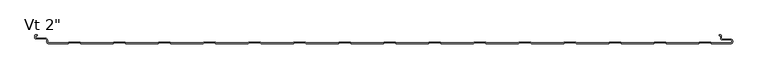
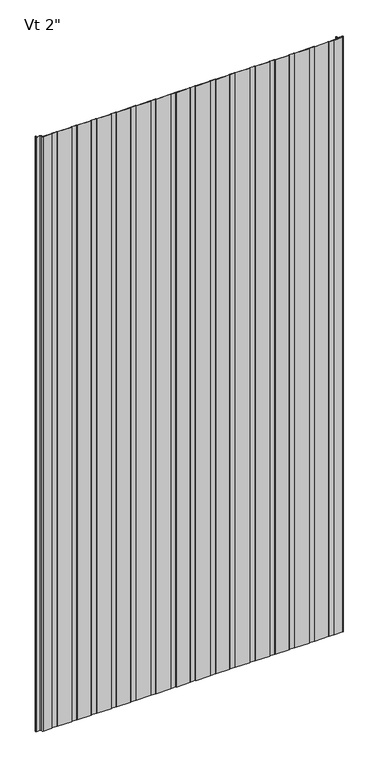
"""IFC4 building model written with IfcOpenShell, lengths in millimetres: plate geometry."""

from ifc_helpers import new_model, si_unit, frame, origin, place, context, project, spatial, polyline, circle_curve, source, transform, mapped, element, save
from ifc_brep_helpers import plane_surface, cylinder_surface, revolved_surface, advanced_brep


def plate_17dc52cc(model_context):
    return source(origin(), model_context, "Body", "AdvancedBrep", [
        advanced_brep(
        [(390.6883592, -50.8, 2400.0), (445.2678137, -50.8, 2400.0), (446.3403385, -49.6088405, 2400.0), (465.2384546, -49.6088405, 2400.0), (466.3109794, -50.8, 2400.0), (520.890434, -50.8, 2400.0), (521.9629588, -49.6088405, 2400.0), (540.8610749, -49.6088405, 2400.0), (541.9335958, -50.7999956, 2400.0), (574.5475652, -50.7999956, 2400.0), (577.5248337, -47.8227271, 2400.0), (577.5248337, -46.7806285, 2400.0), (574.5475652, -43.80336, 2400.0), (560.3591801, -43.80336, 2400.0), (558.7713036, -42.2154834, 2400.0), (558.7713036, -37.8950653, 2400.0), (557.1304042, -36.3065979, 2400.0), (554.7857432, -36.3065979, 2400.0), (554.7857432, -37.3060718, 2400.0), (557.1628365, -37.3060718, 2400.0), (557.7713037, -37.8950653, 2400.0), (557.7713037, -42.2154834, 2400.0), (560.3591801, -44.80336, 2400.0), (574.5475652, -44.80336, 2400.0), (576.5248337, -46.7806285, 2400.0), (576.5248337, -47.8227271, 2400.0), (574.5475652, -49.7999956, 2400.0), (542.3760351, -49.7999956, 2400.0), (541.3035142, -48.6088405, 2400.0), (521.5205195, -48.6088405, 2400.0), (520.4479947, -49.8, 2400.0), (466.7534187, -49.8, 2400.0), (465.6808939, -48.6088405, 2400.0), (445.8978992, -48.6088405, 2400.0), (444.8253744, -49.8, 2400.0), (391.1307985, -49.8, 2400.0), (390.0582736, -48.6088405, 2400.0), (370.275279, -48.6088405, 2400.0), (369.2027541, -49.8, 2400.0), (315.5081782, -49.8, 2400.0), (314.4356534, -48.6088405, 2400.0), (294.6526587, -48.6088405, 2400.0), (293.5801339, -49.8, 2400.0), (239.885558, -49.8, 2400.0), (238.8130331, -48.6088405, 2400.0), (219.0300384, -48.6088405, 2400.0), (217.9575136, -49.8, 2400.0), (164.2629377, -49.8, 2400.0), (163.1904129, -48.6088405, 2400.0), (143.4074182, -48.6088405, 2400.0), (142.3348933, -49.8, 2400.0), (88.6403174, -49.8, 2400.0), (87.5677926, -48.6088405, 2400.0), (67.7847979, -48.6088405, 2400.0), (66.7122731, -49.8, 2400.0), (13.0176972, -49.8, 2400.0), (11.9451723, -48.6088405, 2400.0), (-7.8378224, -48.6088405, 2400.0), (-8.9103472, -49.8, 2400.0), (-62.6049231, -49.8, 2400.0), (-63.6774479, -48.6088405, 2400.0), (-83.4604426, -48.6088405, 2400.0), (-84.5329675, -49.8, 2400.0), (-138.2275434, -49.8, 2400.0), (-139.3000682, -48.6088405, 2400.0), (-159.0830629, -48.6088405, 2400.0), (-160.1555877, -49.8, 2400.0), (-213.8501636, -49.8, 2400.0), (-214.9226885, -48.6088405, 2400.0), (-234.7056831, -48.6088405, 2400.0), (-235.778208, -49.8, 2400.0), (-289.4727839, -49.8, 2400.0), (-290.5453087, -48.6088405, 2400.0), (-310.3283034, -48.6088405, 2400.0), (-311.4008282, -49.8, 2400.0), (-365.0954042, -49.8, 2400.0), (-366.167929, -48.6088405, 2400.0), (-385.9509237, -48.6088405, 2400.0), (-387.0234485, -49.8, 2400.0), (-440.7180244, -49.8, 2400.0), (-441.7905493, -48.6088405, 2400.0), (-461.5735439, -48.6088405, 2400.0), (-462.6460688, -49.8, 2400.0), (-516.3406447, -49.8, 2400.0), (-517.4131695, -48.6088405, 2400.0), (-537.1961642, -48.6088405, 2400.0), (-538.268689, -49.8, 2400.0), (-570.43528, -49.8, 2400.0), (-572.4125474, -47.8227096, 2400.0), (-572.4125474, -45.5308258, 2400.0), (-576.3898159, -41.5535573, 2400.0), (-591.9862419, -41.5535573, 2400.0), (-592.5741185, -40.9656807, 2400.0), (-592.5741185, -37.894132, 2400.0), (-591.9862419, -37.3062555, 2400.0), (-589.6312064, -37.3062555, 2400.0), (-589.6312064, -36.3062555, 2400.0), (-591.9862419, -36.3062555, 2400.0), (-593.5741185, -37.894132, 2400.0), (-593.5741185, -40.9656807, 2400.0), (-591.9862419, -42.5535573, 2400.0), (-576.3898159, -42.5535573, 2400.0), (-573.4125474, -45.5308258, 2400.0), (-573.4125474, -47.8227096, 2400.0), (-570.4352807, -50.7999782, 2400.0), (-537.8262497, -50.8, 2400.0), (-536.7537249, -49.6088405, 2400.0), (-517.8556088, -49.6088405, 2400.0), (-516.783084, -50.8, 2400.0), (-462.2036295, -50.8, 2400.0), (-461.1311046, -49.6088405, 2400.0), (-442.2329886, -49.6088405, 2400.0), (-441.1604637, -50.8, 2400.0), (-386.5810092, -50.8, 2400.0), (-385.5084844, -49.6088405, 2400.0), (-366.6103683, -49.6088405, 2400.0), (-365.5378435, -50.8, 2400.0), (-310.9583889, -50.8, 2400.0), (-309.8858641, -49.6088405, 2400.0), (-290.987748, -49.6088405, 2400.0), (-289.9152232, -50.8, 2400.0), (-235.3357687, -50.8, 2400.0), (-234.2632438, -49.6088405, 2400.0), (-215.3651278, -49.6088405, 2400.0), (-214.2926029, -50.8, 2400.0), (-159.7131484, -50.8, 2400.0), (-158.6406236, -49.6088405, 2400.0), (-139.7425075, -49.6088405, 2400.0), (-138.6699827, -50.8, 2400.0), (-84.0905281, -50.8, 2400.0), (-83.0180033, -49.6088405, 2400.0), (-64.1198873, -49.6088405, 2400.0), (-63.0473624, -50.8, 2400.0), (-8.4679079, -50.8, 2400.0), (-7.395383, -49.6088405, 2400.0), (11.502733, -49.6088405, 2400.0), (12.5752578, -50.8, 2400.0), (67.1547124, -50.8, 2400.0), (68.2272372, -49.6088405, 2400.0), (87.1253533, -49.6088405, 2400.0), (88.1978781, -50.8, 2400.0), (142.7773327, -50.8, 2400.0), (143.8498575, -49.6088405, 2400.0), (162.7479735, -49.6088405, 2400.0), (163.8204984, -50.8, 2400.0), (218.3999529, -50.8, 2400.0), (219.4724778, -49.6088405, 2400.0), (238.3705938, -49.6088405, 2400.0), (239.4431186, -50.8, 2400.0), (294.0225732, -50.8, 2400.0), (295.095098, -49.6088405, 2400.0), (313.9932141, -49.6088405, 2400.0), (315.0657389, -50.8, 2400.0), (369.6451934, -50.8, 2400.0), (370.7177183, -49.6088405, 2400.0), (389.6158343, -49.6088405, 2400.0), (390.6883592, -50.8, 0.0), (389.6158343, -49.6088405, 0.0), (370.7177183, -49.6088405, 0.0), (369.6451934, -50.8, 0.0), (315.0657389, -50.8, 0.0), (313.9932141, -49.6088405, 0.0), (295.095098, -49.6088405, 0.0), (294.0225732, -50.8, 0.0), (239.4431186, -50.8, 0.0), (238.3705938, -49.6088405, 0.0), (219.4724778, -49.6088405, 0.0), (218.3999529, -50.8, 0.0), (163.8204984, -50.8, 0.0), (162.7479735, -49.6088405, 0.0), (143.8498575, -49.6088405, 0.0), (142.7773327, -50.8, 0.0), (88.1978781, -50.8, 0.0), (87.1253533, -49.6088405, 0.0), (68.2272372, -49.6088405, 0.0), (67.1547124, -50.8, 0.0), (12.5752578, -50.8, 0.0), (11.502733, -49.6088405, 0.0), (-7.395383, -49.6088405, 0.0), (-8.4679079, -50.8, 0.0), (-63.0473624, -50.8, 0.0), (-64.1198873, -49.6088405, 0.0), (-83.0180033, -49.6088405, 0.0), (-84.0905281, -50.8, 0.0), (-138.6699827, -50.8, 0.0), (-139.7425075, -49.6088405, 0.0), (-158.6406236, -49.6088405, 0.0), (-159.7131484, -50.8, 0.0), (-214.2926029, -50.8, 0.0), (-215.3651278, -49.6088405, 0.0), (-234.2632438, -49.6088405, 0.0), (-235.3357687, -50.8, 0.0), (-289.9152232, -50.8, 0.0), (-290.987748, -49.6088405, 0.0), (-309.8858641, -49.6088405, 0.0), (-310.9583889, -50.8, 0.0), (-365.5378435, -50.8, 0.0), (-366.6103683, -49.6088405, 0.0), (-385.5084844, -49.6088405, 0.0), (-386.5810092, -50.8, 0.0), (-441.1604637, -50.8, 0.0), (-442.2329886, -49.6088405, 0.0), (-461.1311046, -49.6088405, 0.0), (-462.2036295, -50.8, 0.0), (-516.783084, -50.8, 0.0), (-517.8556088, -49.6088405, 0.0), (-536.7537249, -49.6088405, 0.0), (-537.8262497, -50.8, 0.0), (-570.4352807, -50.8, 0.0), (-573.4125474, -47.8227096, 0.0), (-573.4125474, -45.5308258, 0.0), (-576.3898159, -42.5535573, 0.0), (-591.9862419, -42.5535573, 0.0), (-593.5741185, -40.9656807, 0.0), (-593.5741185, -37.894132, 0.0), (-591.9862419, -36.3062555, 0.0), (-589.6312064, -36.3062555, 0.0), (-589.6312064, -37.3062555, 0.0), (-591.9862419, -37.3062555, 0.0), (-592.5741185, -37.894132, 0.0), (-592.5741185, -40.9656807, 0.0), (-591.9862419, -41.5535573, 0.0), (-576.3898159, -41.5535573, 0.0), (-572.4125474, -45.5308258, 0.0), (-572.4125474, -47.8227096, 0.0), (-570.43528, -49.7999782, 0.0), (-538.268689, -49.8, 0.0), (-537.1961642, -48.6088405, 0.0), (-517.4131695, -48.6088405, 0.0), (-516.3406447, -49.8, 0.0), (-462.6460688, -49.8, 0.0), (-461.5735439, -48.6088405, 0.0), (-441.7905493, -48.6088405, 0.0), (-440.7180244, -49.8, 0.0), (-387.0234485, -49.8, 0.0), (-385.9509237, -48.6088405, 0.0), (-366.167929, -48.6088405, 0.0), (-365.0954042, -49.8, 0.0), (-311.4008282, -49.8, 0.0), (-310.3283034, -48.6088405, 0.0), (-290.5453087, -48.6088405, 0.0), (-289.4727839, -49.8, 0.0), (-235.778208, -49.8, 0.0), (-234.7056831, -48.6088405, 0.0), (-214.9226885, -48.6088405, 0.0), (-213.8501636, -49.8, 0.0), (-160.1555877, -49.8, 0.0), (-159.0830629, -48.6088405, 0.0), (-139.3000682, -48.6088405, 0.0), (-138.2275434, -49.8, 0.0), (-84.5329675, -49.8, 0.0), (-83.4604426, -48.6088405, 0.0), (-63.6774479, -48.6088405, 0.0), (-62.6049231, -49.8, 0.0), (-8.9103472, -49.8, 0.0), (-7.8378224, -48.6088405, 0.0), (11.9451723, -48.6088405, 0.0), (13.0176972, -49.8, 0.0), (66.7122731, -49.8, 0.0), (67.7847979, -48.6088405, 0.0), (87.5677926, -48.6088405, 0.0), (88.6403174, -49.8, 0.0), (142.3348933, -49.8, 0.0), (143.4074182, -48.6088405, 0.0), (163.1904129, -48.6088405, 0.0), (164.2629377, -49.8, 0.0), (217.9575136, -49.8, 0.0), (219.0300384, -48.6088405, 0.0), (238.8130331, -48.6088405, 0.0), (239.885558, -49.8, 0.0), (293.5801339, -49.8, 0.0), (294.6526587, -48.6088405, 0.0), (314.4356534, -48.6088405, 0.0), (315.5081782, -49.8, 0.0), (369.2027541, -49.8, 0.0), (370.275279, -48.6088405, 0.0), (390.0582736, -48.6088405, 0.0), (391.1307985, -49.8, 0.0), (444.8253744, -49.8, 0.0), (445.8978992, -48.6088405, 0.0), (465.6808939, -48.6088405, 0.0), (466.7534187, -49.8, 0.0), (520.4479947, -49.8, 0.0), (521.5205195, -48.6088405, 0.0), (541.3035142, -48.6088405, 0.0), (542.3760351, -49.7999956, 0.0), (574.5475652, -49.7999956, 0.0), (576.5248337, -47.8227271, 0.0), (576.5248337, -46.7806285, 0.0), (574.5475652, -44.80336, 0.0), (560.3591801, -44.80336, 0.0), (557.7713036, -42.2154834, 0.0), (557.7713037, -37.8950653, 0.0), (557.1628365, -37.3060718, 0.0), (554.7857432, -37.3060718, 0.0), (554.7857432, -36.3065979, 0.0), (557.1304042, -36.3065979, 0.0), (558.7713037, -37.8950653, 0.0), (558.7713036, -42.2154834, 0.0), (560.3591801, -43.80336, 0.0), (574.5475652, -43.80336, 0.0), (577.5248337, -46.7806285, 0.0), (577.5248337, -47.8227271, 0.0), (574.5475652, -50.7999956, 0.0), (541.9335958, -50.7999956, 0.0), (540.8610749, -49.6088405, 0.0), (521.9629588, -49.6088405, 0.0), (520.890434, -50.8, 0.0), (466.3109794, -50.8, 0.0), (465.2384546, -49.6088405, 0.0), (446.3403385, -49.6088405, 0.0), (445.2678137, -50.8, 0.0)],
        [
            (0, 1),
            (1, 2),
            (2, 3),
            (3, 4),
            (4, 5),
            (5, 6),
            (6, 7),
            (7, 8),
            (8, 9),
            (9, 10, circle_curve(frame((574.5475652, -47.8227271, 2400.0), z_axis=(0.0, 0.0, 1.0), x_axis=(-1.0, 0.0, 0.0)), 2.9772685)),
            (10, 11),
            (11, 12, circle_curve(frame((574.5475652, -46.7806285, 2400.0), z_axis=(0.0, 0.0, 1.0), x_axis=(-1.0, 0.0, 0.0)), 2.9772685)),
            (12, 13),
            (13, 14, circle_curve(frame((560.3591801, -42.2154834, 2400.0), z_axis=(0.0, 0.0, -1.0), x_axis=(-1.0, 0.0, 0.0)), 1.5878765)),
            (14, 15),
            (15, 16, circle_curve(frame((557.1819985, -37.8950653, 2400.0), z_axis=(0.0, 0.0, 1.0), x_axis=(-1.0, 0.0, 0.0)), 1.5893052)),
            (16, 17),
            (17, 18),
            (18, 19),
            (19, 20, circle_curve(frame((557.1819985, -37.8950653, 2400.0), z_axis=(0.0, 0.0, -1.0), x_axis=(-1.0, 0.0, 0.0)), 0.5893052)),
            (20, 21),
            (21, 22, circle_curve(frame((560.3591801, -42.2154834, 2400.0), z_axis=(0.0, 0.0, 1.0), x_axis=(-1.0, 0.0, 0.0)), 2.5878765)),
            (22, 23),
            (23, 24, circle_curve(frame((574.5475652, -46.7806285, 2400.0), z_axis=(0.0, 0.0, -1.0), x_axis=(-1.0, 0.0, 0.0)), 1.9772685)),
            (24, 25),
            (25, 26, circle_curve(frame((574.5475652, -47.8227271, 2400.0), z_axis=(0.0, 0.0, -1.0), x_axis=(-1.0, 0.0, 0.0)), 1.9772685)),
            (26, 27),
            (27, 28),
            (28, 29),
            (29, 30),
            (30, 31),
            (31, 32),
            (32, 33),
            (33, 34),
            (34, 35),
            (35, 36),
            (36, 37),
            (37, 38),
            (38, 39),
            (39, 40),
            (40, 41),
            (41, 42),
            (42, 43),
            (43, 44),
            (44, 45),
            (45, 46),
            (46, 47),
            (47, 48),
            (48, 49),
            (49, 50),
            (50, 51),
            (51, 52),
            (52, 53),
            (53, 54),
            (54, 55),
            (55, 56),
            (56, 57),
            (57, 58),
            (58, 59),
            (59, 60),
            (60, 61),
            (61, 62),
            (62, 63),
            (63, 64),
            (64, 65),
            (65, 66),
            (66, 67),
            (67, 68),
            (68, 69),
            (69, 70),
            (70, 71),
            (71, 72),
            (72, 73),
            (73, 74),
            (74, 75),
            (75, 76),
            (76, 77),
            (77, 78),
            (78, 79),
            (79, 80),
            (80, 81),
            (81, 82),
            (82, 83),
            (83, 84),
            (84, 85),
            (85, 86),
            (86, 87),
            (87, 88, circle_curve(frame((-570.4352788, -47.8227096, 2400.0), z_axis=(0.0, 0.0, -1.0), x_axis=(-1.0, 0.0, 0.0)), 1.9772685)),
            (88, 89),
            (89, 90, circle_curve(frame((-576.3898159, -45.5308258, 2400.0), z_axis=(0.0, 0.0, 1.0), x_axis=(-1.0, 0.0, 0.0)), 3.9772685)),
            (90, 91),
            (91, 92, circle_curve(frame((-591.9862419, -40.9656807, 2400.0), z_axis=(0.0, 0.0, -1.0), x_axis=(-1.0, 0.0, 0.0)), 0.5878765)),
            (92, 93),
            (93, 94, circle_curve(frame((-591.9862419, -37.894132, 2400.0), z_axis=(0.0, 0.0, -1.0), x_axis=(-1.0, 0.0, 0.0)), 0.5878765)),
            (94, 95),
            (95, 96),
            (96, 97),
            (97, 98, circle_curve(frame((-591.9862419, -37.894132, 2400.0), z_axis=(0.0, 0.0, 1.0), x_axis=(-1.0, 0.0, 0.0)), 1.5878765)),
            (98, 99),
            (99, 100, circle_curve(frame((-591.9862419, -40.9656807, 2400.0), z_axis=(0.0, 0.0, 1.0), x_axis=(-1.0, 0.0, 0.0)), 1.5878765)),
            (100, 101),
            (101, 102, circle_curve(frame((-576.3898159, -45.5308258, 2400.0), z_axis=(0.0, 0.0, -1.0), x_axis=(-1.0, 0.0, 0.0)), 2.9772685)),
            (102, 103),
            (103, 104, circle_curve(frame((-570.4352789, -47.8227096, 2400.0), z_axis=(0.0, 0.0, 1.0), x_axis=(-1.0, 0.0, 0.0)), 2.9772685)),
            (104, 105),
            (105, 106),
            (106, 107),
            (107, 108),
            (108, 109),
            (109, 110),
            (110, 111),
            (111, 112),
            (112, 113),
            (113, 114),
            (114, 115),
            (115, 116),
            (116, 117),
            (117, 118),
            (118, 119),
            (119, 120),
            (120, 121),
            (121, 122),
            (122, 123),
            (123, 124),
            (124, 125),
            (125, 126),
            (126, 127),
            (127, 128),
            (128, 129),
            (129, 130),
            (130, 131),
            (131, 132),
            (132, 133),
            (133, 134),
            (134, 135),
            (135, 136),
            (136, 137),
            (137, 138),
            (138, 139),
            (139, 140),
            (140, 141),
            (141, 142),
            (142, 143),
            (143, 144),
            (144, 145),
            (145, 146),
            (146, 147),
            (147, 148),
            (148, 149),
            (149, 150),
            (150, 151),
            (151, 152),
            (152, 153),
            (153, 154),
            (154, 155),
            (155, 0),
            (156, 157),
            (157, 158),
            (158, 159),
            (159, 160),
            (160, 161),
            (161, 162),
            (162, 163),
            (163, 164),
            (164, 165),
            (165, 166),
            (166, 167),
            (167, 168),
            (168, 169),
            (169, 170),
            (170, 171),
            (171, 172),
            (172, 173),
            (173, 174),
            (174, 175),
            (175, 176),
            (176, 177),
            (177, 178),
            (178, 179),
            (179, 180),
            (180, 181),
            (181, 182),
            (182, 183),
            (183, 184),
            (184, 185),
            (185, 186),
            (186, 187),
            (187, 188),
            (188, 189),
            (189, 190),
            (190, 191),
            (191, 192),
            (192, 193),
            (193, 194),
            (194, 195),
            (195, 196),
            (196, 197),
            (197, 198),
            (198, 199),
            (199, 200),
            (200, 201),
            (201, 202),
            (202, 203),
            (203, 204),
            (204, 205),
            (205, 206),
            (206, 207),
            (207, 208),
            (208, 209, circle_curve(frame((-570.4352789, -47.8227096, 0.0), z_axis=(0.0, 0.0, -1.0), x_axis=(-1.0, 0.0, 0.0)), 2.9772685)),
            (209, 210),
            (210, 211, circle_curve(frame((-576.3898159, -45.5308258, 0.0), z_axis=(0.0, 0.0, 1.0), x_axis=(-1.0, 0.0, 0.0)), 2.9772685)),
            (211, 212),
            (212, 213, circle_curve(frame((-591.9862419, -40.9656807, 0.0), z_axis=(0.0, 0.0, -1.0), x_axis=(-1.0, 0.0, 0.0)), 1.5878765)),
            (213, 214),
            (214, 215, circle_curve(frame((-591.9862419, -37.894132, 0.0), z_axis=(0.0, 0.0, -1.0), x_axis=(-1.0, 0.0, 0.0)), 1.5878765)),
            (215, 216),
            (216, 217),
            (217, 218),
            (218, 219, circle_curve(frame((-591.9862419, -37.894132, 0.0), z_axis=(0.0, 0.0, 1.0), x_axis=(-1.0, 0.0, 0.0)), 0.5878765)),
            (219, 220),
            (220, 221, circle_curve(frame((-591.9862419, -40.9656807, 0.0), z_axis=(0.0, 0.0, 1.0), x_axis=(-1.0, 0.0, 0.0)), 0.5878765)),
            (221, 222),
            (222, 223, circle_curve(frame((-576.3898159, -45.5308258, 0.0), z_axis=(0.0, 0.0, -1.0), x_axis=(-1.0, 0.0, 0.0)), 3.9772685)),
            (223, 224),
            (224, 225, circle_curve(frame((-570.4352788, -47.8227096, 0.0), z_axis=(0.0, 0.0, 1.0), x_axis=(-1.0, 0.0, 0.0)), 1.9772685)),
            (225, 226),
            (226, 227),
            (227, 228),
            (228, 229),
            (229, 230),
            (230, 231),
            (231, 232),
            (232, 233),
            (233, 234),
            (234, 235),
            (235, 236),
            (236, 237),
            (237, 238),
            (238, 239),
            (239, 240),
            (240, 241),
            (241, 242),
            (242, 243),
            (243, 244),
            (244, 245),
            (245, 246),
            (246, 247),
            (247, 248),
            (248, 249),
            (249, 250),
            (250, 251),
            (251, 252),
            (252, 253),
            (253, 254),
            (254, 255),
            (255, 256),
            (256, 257),
            (257, 258),
            (258, 259),
            (259, 260),
            (260, 261),
            (261, 262),
            (262, 263),
            (263, 264),
            (264, 265),
            (265, 266),
            (266, 267),
            (267, 268),
            (268, 269),
            (269, 270),
            (270, 271),
            (271, 272),
            (272, 273),
            (273, 274),
            (274, 275),
            (275, 276),
            (276, 277),
            (277, 278),
            (278, 279),
            (279, 280),
            (280, 281),
            (281, 282),
            (282, 283),
            (283, 284),
            (284, 285),
            (285, 286),
            (286, 287, circle_curve(frame((574.5475652, -47.8227271, 0.0), z_axis=(0.0, 0.0, 1.0), x_axis=(-1.0, 0.0, 0.0)), 1.9772685)),
            (287, 288),
            (288, 289, circle_curve(frame((574.5475652, -46.7806285, 0.0), z_axis=(0.0, 0.0, 1.0), x_axis=(-1.0, 0.0, 0.0)), 1.9772685)),
            (289, 290),
            (290, 291, circle_curve(frame((560.3591801, -42.2154834, 0.0), z_axis=(0.0, 0.0, -1.0), x_axis=(-1.0, 0.0, 0.0)), 2.5878765)),
            (291, 292),
            (292, 293, circle_curve(frame((557.1819985, -37.8950653, 0.0), z_axis=(0.0, 0.0, 1.0), x_axis=(-1.0, 0.0, 0.0)), 0.5893052)),
            (293, 294),
            (294, 295),
            (295, 296),
            (296, 297, circle_curve(frame((557.1819985, -37.8950653, 0.0), z_axis=(0.0, 0.0, -1.0), x_axis=(-1.0, 0.0, 0.0)), 1.5893052)),
            (297, 298),
            (298, 299, circle_curve(frame((560.3591801, -42.2154834, 0.0), z_axis=(0.0, 0.0, 1.0), x_axis=(-1.0, 0.0, 0.0)), 1.5878765)),
            (299, 300),
            (300, 301, circle_curve(frame((574.5475652, -46.7806285, 0.0), z_axis=(0.0, 0.0, -1.0), x_axis=(-1.0, 0.0, 0.0)), 2.9772685)),
            (301, 302),
            (302, 303, circle_curve(frame((574.5475652, -47.8227271, 0.0), z_axis=(0.0, 0.0, -1.0), x_axis=(-1.0, 0.0, 0.0)), 2.9772685)),
            (303, 304),
            (304, 305),
            (305, 306),
            (306, 307),
            (307, 308),
            (308, 309),
            (309, 310),
            (310, 311),
            (311, 156),
            (0, 156),
            (311, 1),
            (34, 278),
            (277, 35),
            (64, 248),
            (247, 65),
            (124, 188),
            (187, 125),
            (66, 246),
            (245, 67),
            (123, 189),
            (244, 68),
            (121, 191),
            (190, 122),
            (69, 243),
            (242, 70),
            (120, 192),
            (241, 71),
            (119, 193),
            (240, 72),
            (137, 175),
            (174, 138),
            (53, 259),
            (258, 54),
            (173, 139),
            (52, 260),
            (136, 176),
            (257, 55),
            (135, 177),
            (256, 56),
            (133, 179),
            (178, 134),
            (57, 255),
            (254, 58),
            (132, 180),
            (253, 59),
            (131, 181),
            (252, 60),
            (129, 183),
            (182, 130),
            (61, 251),
            (250, 62),
            (128, 184),
            (249, 63),
            (127, 185),
            (186, 126),
            (24, 288),
            (287, 25),
            (10, 302),
            (301, 11),
            (286, 26),
            (103, 209),
            (208, 104),
            (207, 105),
            (91, 221),
            (220, 92),
            (4, 308),
            (307, 5),
            (30, 282),
            (281, 31),
            (7, 305),
            (304, 8),
            (27, 285),
            (284, 28),
            (306, 6),
            (29, 283),
            (23, 289),
            (22, 290),
            (21, 291),
            (20, 292),
            (19, 293),
            (18, 294),
            (17, 295),
            (16, 296),
            (15, 297),
            (14, 298),
            (13, 299),
            (12, 300),
            (9, 303),
            (101, 211),
            (210, 102),
            (99, 213),
            (212, 100),
            (97, 215),
            (214, 98),
            (95, 217),
            (216, 96),
            (93, 219),
            (218, 94),
            (90, 222),
            (88, 224),
            (223, 89),
            (86, 226),
            (225, 87),
            (106, 206),
            (205, 107),
            (85, 227),
            (84, 228),
            (204, 108),
            (203, 109),
            (82, 230),
            (229, 83),
            (110, 202),
            (201, 111),
            (81, 231),
            (80, 232),
            (200, 112),
            (199, 113),
            (78, 234),
            (233, 79),
            (114, 198),
            (197, 115),
            (77, 235),
            (76, 236),
            (196, 116),
            (195, 117),
            (74, 238),
            (237, 75),
            (118, 194),
            (73, 239),
            (172, 140),
            (171, 141),
            (50, 262),
            (261, 51),
            (142, 170),
            (169, 143),
            (49, 263),
            (48, 264),
            (168, 144),
            (167, 145),
            (46, 266),
            (265, 47),
            (146, 166),
            (165, 147),
            (45, 267),
            (44, 268),
            (164, 148),
            (163, 149),
            (42, 270),
            (269, 43),
            (150, 162),
            (161, 151),
            (41, 271),
            (40, 272),
            (160, 152),
            (159, 153),
            (38, 274),
            (273, 39),
            (154, 158),
            (157, 155),
            (37, 275),
            (36, 276),
            (2, 310),
            (309, 3),
            (32, 280),
            (279, 33),
        ],
        [
            plane_surface(frame((0.0, -50.8, 2400.0), z_axis=(0.0, 0.0, 1.0), x_axis=(0.0, -1.0, 0.0))),
            plane_surface(frame((0.0, -50.8, 0.0), z_axis=(0.0, 0.0, -1.0), x_axis=(0.0, -1.0, 0.0))),
            plane_surface(frame((445.2678137, -50.8, 2400.0), z_axis=(0.0, -1.0, 0.0), x_axis=(0.0, 0.0, -1.0))),
            plane_surface(frame((391.1307985, -49.8, 2400.0), z_axis=(0.0, 1.0, 0.0), x_axis=(0.0, 0.0, -1.0))),
            plane_surface(frame((-159.0830629, -48.6088405, 2400.0), z_axis=(0.0, 1.0, 0.0), x_axis=(0.0, 0.0, -1.0))),
            plane_surface(frame((-159.7131484, -50.8, 2400.0), z_axis=(0.0, -1.0, 0.0), x_axis=(0.0, 0.0, -1.0))),
            plane_surface(frame((-213.8501636, -49.8, 2400.0), z_axis=(0.0, 1.0, 0.0), x_axis=(0.0, 0.0, -1.0))),
            plane_surface(frame((-214.2926029, -50.8, 2400.0), z_axis=(-0.7431448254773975, -0.6691306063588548, 0.0), x_axis=(0.0, 0.0, -1.0))),
            plane_surface(frame((-214.9226885, -48.6088405, 2400.0), z_axis=(0.7431448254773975, 0.6691306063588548, 0.0), x_axis=(0.0, 0.0, -1.0))),
            plane_surface(frame((-234.2632438, -49.6088405, 2400.0), z_axis=(0.7431448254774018, -0.66913060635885, 0.0), x_axis=(0.0, 0.0, -1.0))),
            plane_surface(frame((-235.778208, -49.8, 2400.0), z_axis=(-0.7431448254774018, 0.66913060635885, 0.0), x_axis=(0.0, 0.0, -1.0))),
            plane_surface(frame((-215.3651278, -49.6088405, 2400.0), z_axis=(0.0, -1.0, 0.0), x_axis=(0.0, 0.0, -1.0))),
            plane_surface(frame((-234.7056831, -48.6088405, 2400.0), z_axis=(0.0, 1.0, 0.0), x_axis=(0.0, 0.0, -1.0))),
            plane_surface(frame((-235.3357687, -50.8, 2400.0), z_axis=(0.0, -1.0, 0.0), x_axis=(0.0, 0.0, -1.0))),
            plane_surface(frame((-289.4727839, -49.8, 2400.0), z_axis=(0.0, 1.0, 0.0), x_axis=(0.0, 0.0, -1.0))),
            plane_surface(frame((-289.9152232, -50.8, 2400.0), z_axis=(-0.7431448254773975, -0.6691306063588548, 0.0), x_axis=(0.0, 0.0, -1.0))),
            plane_surface(frame((-290.5453087, -48.6088405, 2400.0), z_axis=(0.7431448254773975, 0.6691306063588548, 0.0), x_axis=(0.0, 0.0, -1.0))),
            plane_surface(frame((68.2272372, -49.6088405, 2400.0), z_axis=(0.7431448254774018, -0.66913060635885, 0.0), x_axis=(0.0, 0.0, -1.0))),
            plane_surface(frame((66.7122731, -49.8, 2400.0), z_axis=(-0.7431448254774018, 0.66913060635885, 0.0), x_axis=(0.0, 0.0, -1.0))),
            plane_surface(frame((87.1253533, -49.6088405, 2400.0), z_axis=(0.0, -1.0, 0.0), x_axis=(0.0, 0.0, -1.0))),
            plane_surface(frame((67.7847979, -48.6088405, 2400.0), z_axis=(0.0, 1.0, 0.0), x_axis=(0.0, 0.0, -1.0))),
            plane_surface(frame((67.1547124, -50.8, 2400.0), z_axis=(0.0, -1.0, 0.0), x_axis=(0.0, 0.0, -1.0))),
            plane_surface(frame((13.0176972, -49.8, 2400.0), z_axis=(0.0, 1.0, 0.0), x_axis=(0.0, 0.0, -1.0))),
            plane_surface(frame((12.5752578, -50.8, 2400.0), z_axis=(-0.7431448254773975, -0.6691306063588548, 0.0), x_axis=(0.0, 0.0, -1.0))),
            plane_surface(frame((11.9451723, -48.6088405, 2400.0), z_axis=(0.7431448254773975, 0.6691306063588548, 0.0), x_axis=(0.0, 0.0, -1.0))),
            plane_surface(frame((-7.395383, -49.6088405, 2400.0), z_axis=(0.7431448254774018, -0.66913060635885, 0.0), x_axis=(0.0, 0.0, -1.0))),
            plane_surface(frame((-8.9103472, -49.8, 2400.0), z_axis=(-0.7431448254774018, 0.66913060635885, 0.0), x_axis=(0.0, 0.0, -1.0))),
            plane_surface(frame((11.502733, -49.6088405, 2400.0), z_axis=(0.0, -1.0, 0.0), x_axis=(0.0, 0.0, -1.0))),
            plane_surface(frame((-7.8378224, -48.6088405, 2400.0), z_axis=(0.0, 1.0, 0.0), x_axis=(0.0, 0.0, -1.0))),
            plane_surface(frame((-8.4679079, -50.8, 2400.0), z_axis=(0.0, -1.0, 0.0), x_axis=(0.0, 0.0, -1.0))),
            plane_surface(frame((-62.6049231, -49.8, 2400.0), z_axis=(0.0, 1.0, 0.0), x_axis=(0.0, 0.0, -1.0))),
            plane_surface(frame((-63.0473624, -50.8, 2400.0), z_axis=(-0.7431448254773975, -0.6691306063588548, 0.0), x_axis=(0.0, 0.0, -1.0))),
            plane_surface(frame((-63.6774479, -48.6088405, 2400.0), z_axis=(0.7431448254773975, 0.6691306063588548, 0.0), x_axis=(0.0, 0.0, -1.0))),
            plane_surface(frame((-83.0180033, -49.6088405, 2400.0), z_axis=(0.7431448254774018, -0.66913060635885, 0.0), x_axis=(0.0, 0.0, -1.0))),
            plane_surface(frame((-84.5329675, -49.8, 2400.0), z_axis=(-0.7431448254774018, 0.66913060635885, 0.0), x_axis=(0.0, 0.0, -1.0))),
            plane_surface(frame((-64.1198873, -49.6088405, 2400.0), z_axis=(0.0, -1.0, 0.0), x_axis=(0.0, 0.0, -1.0))),
            plane_surface(frame((-83.4604426, -48.6088405, 2400.0), z_axis=(0.0, 1.0, 0.0), x_axis=(0.0, 0.0, -1.0))),
            plane_surface(frame((-84.0905281, -50.8, 2400.0), z_axis=(0.0, -1.0, 0.0), x_axis=(0.0, 0.0, -1.0))),
            plane_surface(frame((-138.2275434, -49.8, 2400.0), z_axis=(0.0, 1.0, 0.0), x_axis=(0.0, 0.0, -1.0))),
            plane_surface(frame((-138.6699827, -50.8, 2400.0), z_axis=(-0.7431448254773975, -0.6691306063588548, 0.0), x_axis=(0.0, 0.0, -1.0))),
            plane_surface(frame((-139.3000682, -48.6088405, 2400.0), z_axis=(0.7431448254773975, 0.6691306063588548, 0.0), x_axis=(0.0, 0.0, -1.0))),
            plane_surface(frame((-158.6406236, -49.6088405, 2400.0), z_axis=(0.7431448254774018, -0.66913060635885, 0.0), x_axis=(0.0, 0.0, -1.0))),
            plane_surface(frame((-160.1555877, -49.8, 2400.0), z_axis=(-0.7431448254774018, 0.66913060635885, 0.0), x_axis=(0.0, 0.0, -1.0))),
            plane_surface(frame((-139.7425075, -49.6088405, 2400.0), z_axis=(0.0, -1.0, 0.0), x_axis=(0.0, 0.0, -1.0))),
            plane_surface(frame((576.5248337, -47.8227271, 2400.0), z_axis=(-1.0, 0.0, 0.0), x_axis=(0.0, 0.0, -1.0))),
            plane_surface(frame((577.5248337, -46.7806285, 2400.0), z_axis=(1.0, 0.0, 0.0), x_axis=(0.0, 0.0, -1.0))),
            revolved_surface(polyline([(572.5702967, -47.8227271, 0.0), (572.5702967, -47.8227271, 2400.0)]), (574.5475652, -47.8227271, 2400.0), (0.0, 0.0, -1.0)),
            cylinder_surface(frame((-570.4352789, -47.8227096, 2400.0), z_axis=(0.0, 0.0, 1.0), x_axis=(-1.0, 0.0, 0.0)), 2.9772685),
            plane_surface(frame((-537.8262497, -50.8, 2400.0), z_axis=(0.0, -1.0, 0.0), x_axis=(0.0, 0.0, -1.0))),
            revolved_surface(polyline([(-592.5741184, -40.9656807, 0.0), (-592.5741184, -40.9656807, 2400.0)]), (-591.9862419, -40.9656807, 2400.0), (0.0, 0.0, -1.0)),
            plane_surface(frame((520.890434, -50.8, 2400.0), z_axis=(0.0, -1.0, 0.0), x_axis=(0.0, 0.0, -1.0))),
            plane_surface(frame((466.7534187, -49.8, 2400.0), z_axis=(0.0, 1.0, 0.0), x_axis=(0.0, 0.0, -1.0))),
            plane_surface(frame((541.9335958, -50.7999956, 2400.0), z_axis=(-0.7431448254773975, -0.6691306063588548, 0.0), x_axis=(0.0, 0.0, -1.0))),
            plane_surface(frame((541.3035142, -48.6088405, 2400.0), z_axis=(0.7431448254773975, 0.6691306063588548, 0.0), x_axis=(0.0, 0.0, -1.0))),
            plane_surface(frame((521.9629588, -49.6088405, 2400.0), z_axis=(0.7431448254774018, -0.66913060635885, 0.0), x_axis=(0.0, 0.0, -1.0))),
            plane_surface(frame((520.4479947, -49.8, 2400.0), z_axis=(-0.7431448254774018, 0.66913060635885, 0.0), x_axis=(0.0, 0.0, -1.0))),
            plane_surface(frame((540.8610749, -49.6088405, 2400.0), z_axis=(0.0, -1.0, 0.0), x_axis=(0.0, 0.0, -1.0))),
            plane_surface(frame((521.5205195, -48.6088405, 2400.0), z_axis=(0.0, 1.0, 0.0), x_axis=(0.0, 0.0, -1.0))),
            plane_surface(frame((542.3760351, -49.7999956, 2400.0), z_axis=(0.0, 1.0, 0.0), x_axis=(0.0, 0.0, -1.0))),
            revolved_surface(polyline([(572.5702967, -46.7806285, 0.0), (572.5702967, -46.7806285, 2400.0)]), (574.5475652, -46.7806285, 2400.0), (0.0, 0.0, -1.0)),
            plane_surface(frame((574.5475652, -44.80336, 2400.0), z_axis=(0.0, -1.0, 0.0), x_axis=(0.0, 0.0, -1.0))),
            cylinder_surface(frame((560.3591801, -42.2154834, 2400.0), z_axis=(0.0, 0.0, 1.0), x_axis=(-1.0, 0.0, 0.0)), 2.5878765),
            plane_surface(frame((557.7713037, -42.2154834, 2400.0), z_axis=(-1.0, 0.0, 0.0), x_axis=(0.0, 0.0, -1.0))),
            revolved_surface(polyline([(556.5926933, -37.8950653, 0.0), (556.5926933, -37.8950653, 2400.0)]), (557.1819985, -37.8950653, 2400.0), (0.0, 0.0, -1.0)),
            plane_surface(frame((557.1628365, -37.3060718, 2400.0), z_axis=(0.0, -1.0, 0.0), x_axis=(0.0, 0.0, -1.0))),
            plane_surface(frame((554.7857432, -37.3060718, 2400.0), z_axis=(-1.0, 0.0, 0.0), x_axis=(0.0, 0.0, -1.0))),
            plane_surface(frame((554.7857432, -36.3065979, 2400.0), z_axis=(0.0, 1.0, 0.0), x_axis=(0.0, 0.0, -1.0))),
            cylinder_surface(frame((557.1819985, -37.8950653, 2400.0), z_axis=(0.0, 0.0, 1.0), x_axis=(-1.0, 0.0, 0.0)), 1.5893052),
            plane_surface(frame((558.7713036, -37.8950653, 2400.0), z_axis=(1.0, 0.0, 0.0), x_axis=(0.0, 0.0, -1.0))),
            revolved_surface(polyline([(558.7713036, -42.2154834, 0.0), (558.7713036, -42.2154834, 2400.0)]), (560.3591801, -42.2154834, 2400.0), (0.0, 0.0, -1.0)),
            plane_surface(frame((560.3591801, -43.80336, 2400.0), z_axis=(0.0, 1.0, 0.0), x_axis=(0.0, 0.0, -1.0))),
            cylinder_surface(frame((574.5475652, -46.7806285, 2400.0), z_axis=(0.0, 0.0, 1.0), x_axis=(-1.0, 0.0, 0.0)), 2.9772685),
            cylinder_surface(frame((574.5475652, -47.8227271, 2400.0), z_axis=(0.0, 0.0, 1.0), x_axis=(-1.0, 0.0, 0.0)), 2.9772685),
            plane_surface(frame((574.5475652, -50.7999956, 2400.0), z_axis=(0.0, -1.0, 0.0), x_axis=(0.0, 0.0, -1.0))),
            revolved_surface(polyline([(-579.3670844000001, -45.5308258, 0.0), (-579.3670844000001, -45.5308258, 2400.0)]), (-576.3898159, -45.5308258, 2400.0), (0.0, 0.0, -1.0)),
            cylinder_surface(frame((-591.9862419, -40.9656807, 2400.0), z_axis=(0.0, 0.0, 1.0), x_axis=(-1.0, 0.0, 0.0)), 1.5878765),
            plane_surface(frame((-576.3898159, -42.5535573, 2400.0), z_axis=(0.0, -1.0, 0.0), x_axis=(0.0, 0.0, -1.0))),
            plane_surface(frame((-573.4125474, -47.8227096, 2400.0), z_axis=(-1.0, 0.0, 0.0), x_axis=(0.0, 0.0, -1.0))),
            cylinder_surface(frame((-591.9862419, -37.894132, 2400.0), z_axis=(0.0, 0.0, 1.0), x_axis=(-1.0, 0.0, 0.0)), 1.5878765),
            plane_surface(frame((-589.6312064, -36.3062555, 2400.0), z_axis=(1.0, 0.0, 0.0), x_axis=(0.0, 0.0, -1.0))),
            plane_surface(frame((-591.9862419, -36.3062555, 2400.0), z_axis=(0.0, 1.0, 0.0), x_axis=(0.0, 0.0, -1.0))),
            plane_surface(frame((-593.5741185, -40.9656807, 2400.0), z_axis=(-1.0, 0.0, 0.0), x_axis=(0.0, 0.0, -1.0))),
            revolved_surface(polyline([(-592.5741184, -37.894132, 0.0), (-592.5741184, -37.894132, 2400.0)]), (-591.9862419, -37.894132, 2400.0), (0.0, 0.0, -1.0)),
            plane_surface(frame((-591.9862419, -41.5535573, 2400.0), z_axis=(0.0, 1.0, 0.0), x_axis=(0.0, 0.0, -1.0))),
            plane_surface(frame((-592.5741185, -37.894132, 2400.0), z_axis=(1.0, 0.0, 0.0), x_axis=(0.0, 0.0, -1.0))),
            plane_surface(frame((-589.6312064, -37.3062555, 2400.0), z_axis=(0.0, -1.0, 0.0), x_axis=(0.0, 0.0, -1.0))),
            plane_surface(frame((-572.4125474, -45.5308258, 2400.0), z_axis=(1.0, 0.0, 0.0), x_axis=(0.0, 0.0, -1.0))),
            plane_surface(frame((-570.43528, -49.8, 2400.0), z_axis=(0.0, 1.0, 0.0), x_axis=(0.0, 0.0, -1.0))),
            revolved_surface(polyline([(-572.4125473, -47.8227096, 0.0), (-572.4125473, -47.8227096, 2400.0)]), (-570.4352788, -47.8227096, 2400.0), (0.0, 0.0, -1.0)),
            cylinder_surface(frame((-576.3898159, -45.5308258, 2400.0), z_axis=(0.0, 0.0, 1.0), x_axis=(-1.0, 0.0, 0.0)), 3.9772685),
            plane_surface(frame((-517.8556088, -49.6088405, 2400.0), z_axis=(0.0, -1.0, 0.0), x_axis=(0.0, 0.0, -1.0))),
            plane_surface(frame((-536.7537249, -49.6088405, 2400.0), z_axis=(0.7431448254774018, -0.66913060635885, 0.0), x_axis=(0.0, 0.0, -1.0))),
            plane_surface(frame((-538.268689, -49.8, 2400.0), z_axis=(-0.7431448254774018, 0.66913060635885, 0.0), x_axis=(0.0, 0.0, -1.0))),
            plane_surface(frame((-537.1961642, -48.6088405, 2400.0), z_axis=(0.0, 1.0, 0.0), x_axis=(0.0, 0.0, -1.0))),
            plane_surface(frame((-516.783084, -50.8, 2400.0), z_axis=(-0.7431448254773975, -0.6691306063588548, 0.0), x_axis=(0.0, 0.0, -1.0))),
            plane_surface(frame((-462.2036295, -50.8, 2400.0), z_axis=(0.0, -1.0, 0.0), x_axis=(0.0, 0.0, -1.0))),
            plane_surface(frame((-516.3406447, -49.8, 2400.0), z_axis=(0.0, 1.0, 0.0), x_axis=(0.0, 0.0, -1.0))),
            plane_surface(frame((-517.4131695, -48.6088405, 2400.0), z_axis=(0.7431448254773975, 0.6691306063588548, 0.0), x_axis=(0.0, 0.0, -1.0))),
            plane_surface(frame((-442.2329886, -49.6088405, 2400.0), z_axis=(0.0, -1.0, 0.0), x_axis=(0.0, 0.0, -1.0))),
            plane_surface(frame((-461.1311046, -49.6088405, 2400.0), z_axis=(0.7431448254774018, -0.66913060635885, 0.0), x_axis=(0.0, 0.0, -1.0))),
            plane_surface(frame((-462.6460688, -49.8, 2400.0), z_axis=(-0.7431448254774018, 0.66913060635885, 0.0), x_axis=(0.0, 0.0, -1.0))),
            plane_surface(frame((-461.5735439, -48.6088405, 2400.0), z_axis=(0.0, 1.0, 0.0), x_axis=(0.0, 0.0, -1.0))),
            plane_surface(frame((-441.1604637, -50.8, 2400.0), z_axis=(-0.7431448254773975, -0.6691306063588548, 0.0), x_axis=(0.0, 0.0, -1.0))),
            plane_surface(frame((-386.5810092, -50.8, 2400.0), z_axis=(0.0, -1.0, 0.0), x_axis=(0.0, 0.0, -1.0))),
            plane_surface(frame((-440.7180244, -49.8, 2400.0), z_axis=(0.0, 1.0, 0.0), x_axis=(0.0, 0.0, -1.0))),
            plane_surface(frame((-441.7905493, -48.6088405, 2400.0), z_axis=(0.7431448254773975, 0.6691306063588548, 0.0), x_axis=(0.0, 0.0, -1.0))),
            plane_surface(frame((-366.6103683, -49.6088405, 2400.0), z_axis=(0.0, -1.0, 0.0), x_axis=(0.0, 0.0, -1.0))),
            plane_surface(frame((-385.5084844, -49.6088405, 2400.0), z_axis=(0.7431448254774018, -0.66913060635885, 0.0), x_axis=(0.0, 0.0, -1.0))),
            plane_surface(frame((-387.0234485, -49.8, 2400.0), z_axis=(-0.7431448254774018, 0.66913060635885, 0.0), x_axis=(0.0, 0.0, -1.0))),
            plane_surface(frame((-385.9509237, -48.6088405, 2400.0), z_axis=(0.0, 1.0, 0.0), x_axis=(0.0, 0.0, -1.0))),
            plane_surface(frame((-365.5378435, -50.8, 2400.0), z_axis=(-0.7431448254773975, -0.6691306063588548, 0.0), x_axis=(0.0, 0.0, -1.0))),
            plane_surface(frame((-310.9583889, -50.8, 2400.0), z_axis=(0.0, -1.0, 0.0), x_axis=(0.0, 0.0, -1.0))),
            plane_surface(frame((-365.0954042, -49.8, 2400.0), z_axis=(0.0, 1.0, 0.0), x_axis=(0.0, 0.0, -1.0))),
            plane_surface(frame((-366.167929, -48.6088405, 2400.0), z_axis=(0.7431448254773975, 0.6691306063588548, 0.0), x_axis=(0.0, 0.0, -1.0))),
            plane_surface(frame((-290.987748, -49.6088405, 2400.0), z_axis=(0.0, -1.0, 0.0), x_axis=(0.0, 0.0, -1.0))),
            plane_surface(frame((-309.8858641, -49.6088405, 2400.0), z_axis=(0.7431448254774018, -0.66913060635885, 0.0), x_axis=(0.0, 0.0, -1.0))),
            plane_surface(frame((-311.4008282, -49.8, 2400.0), z_axis=(-0.7431448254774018, 0.66913060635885, 0.0), x_axis=(0.0, 0.0, -1.0))),
            plane_surface(frame((-310.3283034, -48.6088405, 2400.0), z_axis=(0.0, 1.0, 0.0), x_axis=(0.0, 0.0, -1.0))),
            plane_surface(frame((88.1978781, -50.8, 2400.0), z_axis=(-0.7431448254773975, -0.6691306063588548, 0.0), x_axis=(0.0, 0.0, -1.0))),
            plane_surface(frame((142.7773327, -50.8, 2400.0), z_axis=(0.0, -1.0, 0.0), x_axis=(0.0, 0.0, -1.0))),
            plane_surface(frame((88.6403174, -49.8, 2400.0), z_axis=(0.0, 1.0, 0.0), x_axis=(0.0, 0.0, -1.0))),
            plane_surface(frame((87.5677926, -48.6088405, 2400.0), z_axis=(0.7431448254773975, 0.6691306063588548, 0.0), x_axis=(0.0, 0.0, -1.0))),
            plane_surface(frame((162.7479735, -49.6088405, 2400.0), z_axis=(0.0, -1.0, 0.0), x_axis=(0.0, 0.0, -1.0))),
            plane_surface(frame((143.8498575, -49.6088405, 2400.0), z_axis=(0.7431448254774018, -0.66913060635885, 0.0), x_axis=(0.0, 0.0, -1.0))),
            plane_surface(frame((142.3348933, -49.8, 2400.0), z_axis=(-0.7431448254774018, 0.66913060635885, 0.0), x_axis=(0.0, 0.0, -1.0))),
            plane_surface(frame((143.4074182, -48.6088405, 2400.0), z_axis=(0.0, 1.0, 0.0), x_axis=(0.0, 0.0, -1.0))),
            plane_surface(frame((163.8204984, -50.8, 2400.0), z_axis=(-0.7431448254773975, -0.6691306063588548, 0.0), x_axis=(0.0, 0.0, -1.0))),
            plane_surface(frame((218.3999529, -50.8, 2400.0), z_axis=(0.0, -1.0, 0.0), x_axis=(0.0, 0.0, -1.0))),
            plane_surface(frame((164.2629377, -49.8, 2400.0), z_axis=(0.0, 1.0, 0.0), x_axis=(0.0, 0.0, -1.0))),
            plane_surface(frame((163.1904129, -48.6088405, 2400.0), z_axis=(0.7431448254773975, 0.6691306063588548, 0.0), x_axis=(0.0, 0.0, -1.0))),
            plane_surface(frame((238.3705938, -49.6088405, 2400.0), z_axis=(0.0, -1.0, 0.0), x_axis=(0.0, 0.0, -1.0))),
            plane_surface(frame((219.4724778, -49.6088405, 2400.0), z_axis=(0.7431448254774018, -0.66913060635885, 0.0), x_axis=(0.0, 0.0, -1.0))),
            plane_surface(frame((217.9575136, -49.8, 2400.0), z_axis=(-0.7431448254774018, 0.66913060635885, 0.0), x_axis=(0.0, 0.0, -1.0))),
            plane_surface(frame((219.0300384, -48.6088405, 2400.0), z_axis=(0.0, 1.0, 0.0), x_axis=(0.0, 0.0, -1.0))),
            plane_surface(frame((239.4431186, -50.8, 2400.0), z_axis=(-0.7431448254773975, -0.6691306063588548, 0.0), x_axis=(0.0, 0.0, -1.0))),
            plane_surface(frame((294.0225732, -50.8, 2400.0), z_axis=(0.0, -1.0, 0.0), x_axis=(0.0, 0.0, -1.0))),
            plane_surface(frame((239.885558, -49.8, 2400.0), z_axis=(0.0, 1.0, 0.0), x_axis=(0.0, 0.0, -1.0))),
            plane_surface(frame((238.8130331, -48.6088405, 2400.0), z_axis=(0.7431448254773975, 0.6691306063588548, 0.0), x_axis=(0.0, 0.0, -1.0))),
            plane_surface(frame((313.9932141, -49.6088405, 2400.0), z_axis=(0.0, -1.0, 0.0), x_axis=(0.0, 0.0, -1.0))),
            plane_surface(frame((295.095098, -49.6088405, 2400.0), z_axis=(0.7431448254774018, -0.66913060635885, 0.0), x_axis=(0.0, 0.0, -1.0))),
            plane_surface(frame((293.5801339, -49.8, 2400.0), z_axis=(-0.7431448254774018, 0.66913060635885, 0.0), x_axis=(0.0, 0.0, -1.0))),
            plane_surface(frame((294.6526587, -48.6088405, 2400.0), z_axis=(0.0, 1.0, 0.0), x_axis=(0.0, 0.0, -1.0))),
            plane_surface(frame((315.0657389, -50.8, 2400.0), z_axis=(-0.7431448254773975, -0.6691306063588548, 0.0), x_axis=(0.0, 0.0, -1.0))),
            plane_surface(frame((369.6451934, -50.8, 2400.0), z_axis=(0.0, -1.0, 0.0), x_axis=(0.0, 0.0, -1.0))),
            plane_surface(frame((315.5081782, -49.8, 2400.0), z_axis=(0.0, 1.0, 0.0), x_axis=(0.0, 0.0, -1.0))),
            plane_surface(frame((314.4356534, -48.6088405, 2400.0), z_axis=(0.7431448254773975, 0.6691306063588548, 0.0), x_axis=(0.0, 0.0, -1.0))),
            plane_surface(frame((389.6158343, -49.6088405, 2400.0), z_axis=(0.0, -1.0, 0.0), x_axis=(0.0, 0.0, -1.0))),
            plane_surface(frame((370.7177183, -49.6088405, 2400.0), z_axis=(0.7431448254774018, -0.66913060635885, 0.0), x_axis=(0.0, 0.0, -1.0))),
            plane_surface(frame((369.2027541, -49.8, 2400.0), z_axis=(-0.7431448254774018, 0.66913060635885, 0.0), x_axis=(0.0, 0.0, -1.0))),
            plane_surface(frame((370.275279, -48.6088405, 2400.0), z_axis=(0.0, 1.0, 0.0), x_axis=(0.0, 0.0, -1.0))),
            plane_surface(frame((390.6883592, -50.8, 2400.0), z_axis=(-0.7431448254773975, -0.6691306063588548, 0.0), x_axis=(0.0, 0.0, -1.0))),
            plane_surface(frame((465.2384546, -49.6088405, 2400.0), z_axis=(0.0, -1.0, 0.0), x_axis=(0.0, 0.0, -1.0))),
            plane_surface(frame((445.8978992, -48.6088405, 2400.0), z_axis=(0.0, 1.0, 0.0), x_axis=(0.0, 0.0, -1.0))),
            plane_surface(frame((390.0582736, -48.6088405, 2400.0), z_axis=(0.7431448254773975, 0.6691306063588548, 0.0), x_axis=(0.0, 0.0, -1.0))),
            plane_surface(frame((446.3403385, -49.6088405, 2400.0), z_axis=(0.7431448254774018, -0.66913060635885, 0.0), x_axis=(0.0, 0.0, -1.0))),
            plane_surface(frame((466.3109794, -50.8, 2400.0), z_axis=(-0.7431448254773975, -0.6691306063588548, 0.0), x_axis=(0.0, 0.0, -1.0))),
            plane_surface(frame((465.6808939, -48.6088405, 2400.0), z_axis=(0.7431448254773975, 0.6691306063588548, 0.0), x_axis=(0.0, 0.0, -1.0))),
            plane_surface(frame((444.8253744, -49.8, 2400.0), z_axis=(-0.7431448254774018, 0.66913060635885, 0.0), x_axis=(0.0, 0.0, -1.0))),
        ],
        [
            (0, [[1, 2, 3, 4, 5, 6, 7, 8, 9, 10, 11, 12, 13, 14, 15, 16, 17, 18, 19, 20, 21, 22, 23, 24, 25, 26, 27, 28, 29, 30, 31, 32, 33, 34, 35, 36, 37, 38, 39, 40, 41, 42, 43, 44, 45, 46, 47, 48, 49, 50, 51, 52, 53, 54, 55, 56, 57, 58, 59, 60, 61, 62, 63, 64, 65, 66, 67, 68, 69, 70, 71, 72, 73, 74, 75, 76, 77, 78, 79, 80, 81, 82, 83, 84, 85, 86, 87, 88, 89, 90, 91, 92, 93, 94, 95, 96, 97, 98, 99, 100, 101, 102, 103, 104, 105, 106, 107, 108, 109, 110, 111, 112, 113, 114, 115, 116, 117, 118, 119, 120, 121, 122, 123, 124, 125, 126, 127, 128, 129, 130, 131, 132, 133, 134, 135, 136, 137, 138, 139, 140, 141, 142, 143, 144, 145, 146, 147, 148, 149, 150, 151, 152, 153, 154, 155, 156]]),
            (1, [[157, 158, 159, 160, 161, 162, 163, 164, 165, 166, 167, 168, 169, 170, 171, 172, 173, 174, 175, 176, 177, 178, 179, 180, 181, 182, 183, 184, 185, 186, 187, 188, 189, 190, 191, 192, 193, 194, 195, 196, 197, 198, 199, 200, 201, 202, 203, 204, 205, 206, 207, 208, 209, 210, 211, 212, 213, 214, 215, 216, 217, 218, 219, 220, 221, 222, 223, 224, 225, 226, 227, 228, 229, 230, 231, 232, 233, 234, 235, 236, 237, 238, 239, 240, 241, 242, 243, 244, 245, 246, 247, 248, 249, 250, 251, 252, 253, 254, 255, 256, 257, 258, 259, 260, 261, 262, 263, 264, 265, 266, 267, 268, 269, 270, 271, 272, 273, 274, 275, 276, 277, 278, 279, 280, 281, 282, 283, 284, 285, 286, 287, 288, 289, 290, 291, 292, 293, 294, 295, 296, 297, 298, 299, 300, 301, 302, 303, 304, 305, 306, 307, 308, 309, 310, 311, 312]]),
            (2, [[313, -312, 314, -1]]),
            (3, [[315, -278, 316, -35]]),
            (4, [[317, -248, 318, -65]]),
            (5, [[319, -188, 320, -125]]),
            (6, [[321, -246, 322, -67]]),
            (7, [[323, -189, -319, -124]]),
            (8, [[-322, -245, 324, -68]]),
            (9, [[325, -191, 326, -122]]),
            (10, [[327, -243, 328, -70]]),
            (11, [[-326, -190, -323, -123]]),
            (12, [[-324, -244, -327, -69]]),
            (13, [[329, -192, -325, -121]]),
            (14, [[-328, -242, 330, -71]]),
            (15, [[331, -193, -329, -120]]),
            (16, [[-330, -241, 332, -72]]),
            (17, [[333, -175, 334, -138]]),
            (18, [[335, -259, 336, -54]]),
            (19, [[-334, -174, 337, -139]]),
            (20, [[338, -260, -335, -53]]),
            (21, [[339, -176, -333, -137]]),
            (22, [[-336, -258, 340, -55]]),
            (23, [[341, -177, -339, -136]]),
            (24, [[-340, -257, 342, -56]]),
            (25, [[343, -179, 344, -134]]),
            (26, [[345, -255, 346, -58]]),
            (27, [[-344, -178, -341, -135]]),
            (28, [[-342, -256, -345, -57]]),
            (29, [[347, -180, -343, -133]]),
            (30, [[-346, -254, 348, -59]]),
            (31, [[349, -181, -347, -132]]),
            (32, [[-348, -253, 350, -60]]),
            (33, [[351, -183, 352, -130]]),
            (34, [[353, -251, 354, -62]]),
            (35, [[-352, -182, -349, -131]]),
            (36, [[-350, -252, -353, -61]]),
            (37, [[355, -184, -351, -129]]),
            (38, [[-354, -250, 356, -63]]),
            (39, [[357, -185, -355, -128]]),
            (40, [[-356, -249, -317, -64]]),
            (41, [[-320, -187, 358, -126]]),
            (42, [[-318, -247, -321, -66]]),
            (43, [[-358, -186, -357, -127]]),
            (44, [[359, -288, 360, -25]]),
            (45, [[361, -302, 362, -11]]),
            (46, [[-360, -287, 363, -26]]),
            (47, [[364, -209, 365, -104]]),
            (48, [[-365, -208, 366, -105]]),
            (49, [[367, -221, 368, -92]]),
            (50, [[369, -308, 370, -5]]),
            (51, [[371, -282, 372, -31]]),
            (52, [[373, -305, 374, -8]]),
            (53, [[375, -285, 376, -28]]),
            (54, [[-370, -307, 377, -6]]),
            (55, [[378, -283, -371, -30]]),
            (56, [[-377, -306, -373, -7]]),
            (57, [[-376, -284, -378, -29]]),
            (58, [[-363, -286, -375, -27]]),
            (59, [[379, -289, -359, -24]]),
            (60, [[380, -290, -379, -23]]),
            (61, [[381, -291, -380, -22]]),
            (62, [[382, -292, -381, -21]]),
            (63, [[383, -293, -382, -20]]),
            (64, [[384, -294, -383, -19]]),
            (65, [[385, -295, -384, -18]]),
            (66, [[386, -296, -385, -17]]),
            (67, [[387, -297, -386, -16]]),
            (68, [[388, -298, -387, -15]]),
            (69, [[389, -299, -388, -14]]),
            (70, [[390, -300, -389, -13]]),
            (71, [[-362, -301, -390, -12]]),
            (72, [[391, -303, -361, -10]]),
            (73, [[-374, -304, -391, -9]]),
            (74, [[392, -211, 393, -102]]),
            (75, [[394, -213, 395, -100]]),
            (76, [[-395, -212, -392, -101]]),
            (77, [[-393, -210, -364, -103]]),
            (78, [[396, -215, 397, -98]]),
            (79, [[398, -217, 399, -96]]),
            (80, [[-399, -216, -396, -97]]),
            (81, [[-397, -214, -394, -99]]),
            (82, [[400, -219, 401, -94]]),
            (83, [[402, -222, -367, -91]]),
            (84, [[-368, -220, -400, -93]]),
            (85, [[-401, -218, -398, -95]]),
            (86, [[403, -224, 404, -89]]),
            (87, [[405, -226, 406, -87]]),
            (88, [[-406, -225, -403, -88]]),
            (89, [[-404, -223, -402, -90]]),
            (90, [[407, -206, 408, -107]]),
            (91, [[-366, -207, -407, -106]]),
            (92, [[409, -227, -405, -86]]),
            (93, [[410, -228, -409, -85]]),
            (94, [[-408, -205, 411, -108]]),
            (95, [[-411, -204, 412, -109]]),
            (96, [[413, -230, 414, -83]]),
            (97, [[-414, -229, -410, -84]]),
            (98, [[415, -202, 416, -111]]),
            (99, [[-412, -203, -415, -110]]),
            (100, [[417, -231, -413, -82]]),
            (101, [[418, -232, -417, -81]]),
            (102, [[-416, -201, 419, -112]]),
            (103, [[-419, -200, 420, -113]]),
            (104, [[421, -234, 422, -79]]),
            (105, [[-422, -233, -418, -80]]),
            (106, [[423, -198, 424, -115]]),
            (107, [[-420, -199, -423, -114]]),
            (108, [[425, -235, -421, -78]]),
            (109, [[426, -236, -425, -77]]),
            (110, [[-424, -197, 427, -116]]),
            (111, [[-427, -196, 428, -117]]),
            (112, [[429, -238, 430, -75]]),
            (113, [[-430, -237, -426, -76]]),
            (114, [[431, -194, -331, -119]]),
            (115, [[-428, -195, -431, -118]]),
            (116, [[432, -239, -429, -74]]),
            (117, [[-332, -240, -432, -73]]),
            (118, [[-337, -173, 433, -140]]),
            (119, [[-433, -172, 434, -141]]),
            (120, [[435, -262, 436, -51]]),
            (121, [[-436, -261, -338, -52]]),
            (122, [[437, -170, 438, -143]]),
            (123, [[-434, -171, -437, -142]]),
            (124, [[439, -263, -435, -50]]),
            (125, [[440, -264, -439, -49]]),
            (126, [[-438, -169, 441, -144]]),
            (127, [[-441, -168, 442, -145]]),
            (128, [[443, -266, 444, -47]]),
            (129, [[-444, -265, -440, -48]]),
            (130, [[445, -166, 446, -147]]),
            (131, [[-442, -167, -445, -146]]),
            (132, [[447, -267, -443, -46]]),
            (133, [[448, -268, -447, -45]]),
            (134, [[-446, -165, 449, -148]]),
            (135, [[-449, -164, 450, -149]]),
            (136, [[451, -270, 452, -43]]),
            (137, [[-452, -269, -448, -44]]),
            (138, [[453, -162, 454, -151]]),
            (139, [[-450, -163, -453, -150]]),
            (140, [[455, -271, -451, -42]]),
            (141, [[456, -272, -455, -41]]),
            (142, [[-454, -161, 457, -152]]),
            (143, [[-457, -160, 458, -153]]),
            (144, [[459, -274, 460, -39]]),
            (145, [[-460, -273, -456, -40]]),
            (146, [[461, -158, 462, -155]]),
            (147, [[-458, -159, -461, -154]]),
            (148, [[463, -275, -459, -38]]),
            (149, [[464, -276, -463, -37]]),
            (150, [[-462, -157, -313, -156]]),
            (151, [[465, -310, 466, -3]]),
            (152, [[467, -280, 468, -33]]),
            (153, [[-316, -277, -464, -36]]),
            (154, [[-314, -311, -465, -2]]),
            (155, [[-466, -309, -369, -4]]),
            (156, [[-372, -281, -467, -32]]),
            (157, [[-468, -279, -315, -34]]),
        ],
    ),
    ])


if __name__ == "__main__":
    model = new_model("IFC4")
    model_context = context("Model", 3, world=origin())
    ifc_project = project(units=[si_unit("LENGTHUNIT", "METRE", prefix="MILLI")], contexts=[model_context])
    site = spatial("IfcSite", under=ifc_project)
    building = spatial("IfcBuilding", under=site)
    placement = place(None, origin())
    plate_shape = plate_17dc52cc(model_context)
    element("IfcPlate", 1, ObjectType="KIP-SLI-FLI-R19-CP-Vt-SL_SL : Vt 2\"", at=placement, inside=building, context=model_context, shape_type="MappedRepresentation", body=[
        mapped(plate_shape, transform((0.0, 0.0, 0.0), x_axis=(1.0, 0.0, 0.0), y_axis=(0.0, 1.0, 0.0), z_axis=(0.0, 0.0, 1.0))),
    ])
    save(model, "model.ifc")
